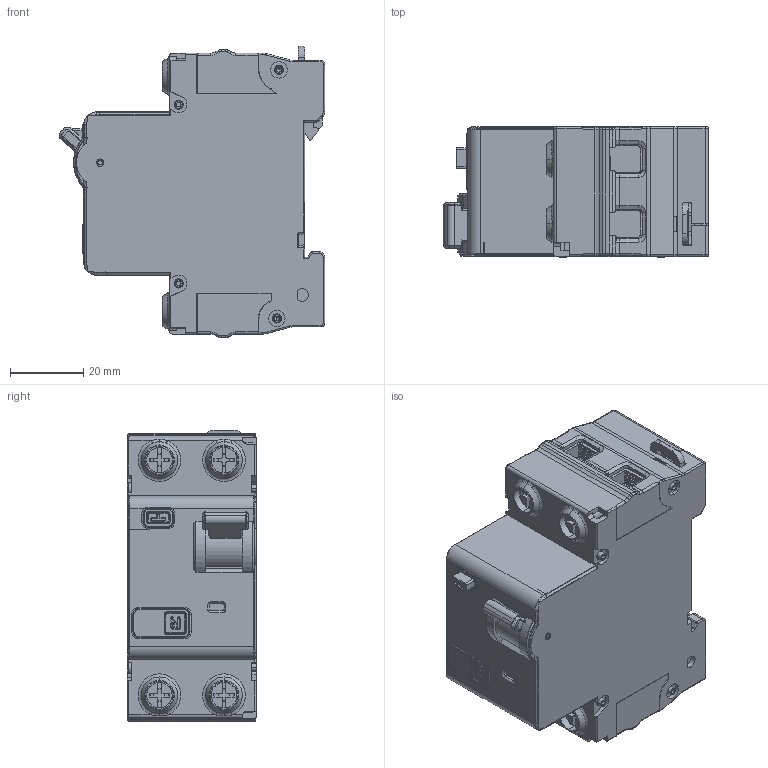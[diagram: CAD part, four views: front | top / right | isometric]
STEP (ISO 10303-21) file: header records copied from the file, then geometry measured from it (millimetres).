
FILE_DESCRIPTION((''),'2;1');
FILE_NAME('2290008100_SW0001','2020-05-29T',('yuan.lu'),(''),'PRO/ENGINEER BY PARAMETRIC TECHNOLOGY CORPORATION, 2015440','PRO/ENGINEER BY PARAMETRIC TECHNOLOGY CORPORATION, 2015440','');
FILE_SCHEMA(('CONFIG_CONTROL_DESIGN'));
Products named in the file (1): 2290008100_SW0001
Bounding box: 72.69 x 35.55 x 79.9 mm (x, y, z)
Volume: 131048.5 mm3; surface area: 35869.1 mm2
Topology: 3 solids, 4 shells, 3333 faces, 8804 edges, 5525 vertices
Faces by surface type: plane 2045, cylinder 800, extrusion 161, cone 137, torus 134, sphere 33, bspline 23
Entity records: 104590 total; most frequent: CARTESIAN_POINT 22090, ORIENTED_EDGE 17596, DIRECTION 16518, EDGE_CURVE 8798, VECTOR 6476, LINE 6315, VERTEX_POINT 5525, AXIS2_PLACEMENT_3D 5021
